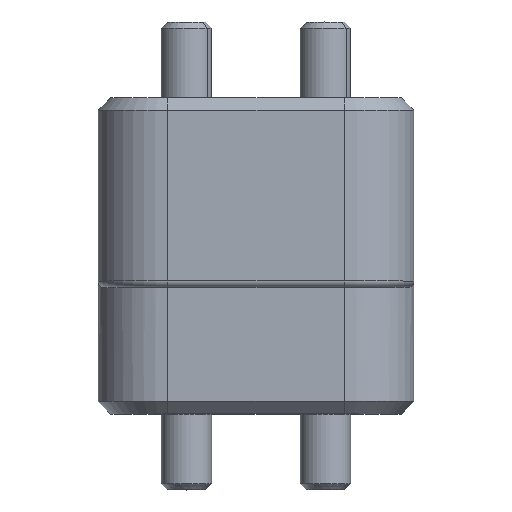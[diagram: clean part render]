
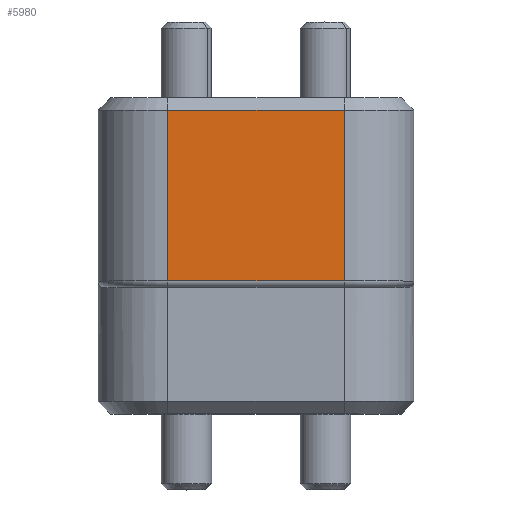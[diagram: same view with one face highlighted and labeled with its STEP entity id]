
A CAD part, top view. The second image highlights one B-rep face of the part: STEP entity #5980.
In plain terms, the highlighted planar face has unit normal (0, 0, 1) as drawn and (0, 1, 0) by its records, which use the part's own axes.
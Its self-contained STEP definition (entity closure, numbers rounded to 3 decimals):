
#21 = EDGE_CURVE ( 'NONE', #5123, #7241, #3471, .T. ) ;
#198 = ORIENTED_EDGE ( 'NONE', *, *, #3148, .T. ) ;
#388 = PLANE ( 'NONE',  #7082 ) ;
#559 = FACE_OUTER_BOUND ( 'NONE', #1313, .T. ) ;
#629 = LINE ( 'NONE', #6373, #5576 ) ;
#869 = CARTESIAN_POINT ( 'NONE',  ( 5.5, 15., -15. ) ) ;
#878 = DIRECTION ( 'NONE',  ( 1., 0., 0. ) ) ;
#1313 = EDGE_LOOP ( 'NONE', ( #5734, #2051, #8669, #198 ) ) ;
#1594 = VERTEX_POINT ( 'NONE', #4974 ) ;
#2051 = ORIENTED_EDGE ( 'NONE', *, *, #8916, .T. ) ;
#2103 = LINE ( 'NONE', #6735, #8668 ) ;
#2561 = DIRECTION ( 'NONE',  ( 0., 0., -1. ) ) ;
#2815 = DIRECTION ( 'NONE',  ( -1., 0., 0. ) ) ;
#3148 = EDGE_CURVE ( 'NONE', #7241, #1594, #2103, .T. ) ;
#3443 = VERTEX_POINT ( 'NONE', #8677 ) ;
#3471 = LINE ( 'NONE', #5773, #6678 ) ;
#4349 = CARTESIAN_POINT ( 'NONE',  ( 0., 15., -15. ) ) ;
#4823 = LINE ( 'NONE', #869, #7287 ) ;
#4974 = CARTESIAN_POINT ( 'NONE',  ( 5.5, 15., -14. ) ) ;
#5123 = VERTEX_POINT ( 'NONE', #9754 ) ;
#5576 = VECTOR ( 'NONE', #878, 1000. ) ;
#5734 = ORIENTED_EDGE ( 'NONE', *, *, #9457, .T. ) ;
#5773 = CARTESIAN_POINT ( 'NONE',  ( 19.5, 15., -15. ) ) ;
#5980 = ADVANCED_FACE ( 'NONE', ( #559 ), #388, .T. ) ;
#6292 = CARTESIAN_POINT ( 'NONE',  ( 19.5, 15., -14. ) ) ;
#6373 = CARTESIAN_POINT ( 'NONE',  ( 0., 15., -0.5 ) ) ;
#6678 = VECTOR ( 'NONE', #2561, 1000. ) ;
#6723 = DIRECTION ( 'NONE',  ( 0., 1., 0. ) ) ;
#6735 = CARTESIAN_POINT ( 'NONE',  ( 5.5, 15., -14. ) ) ;
#6790 = DIRECTION ( 'NONE',  ( 0., 0., 1. ) ) ;
#7082 = AXIS2_PLACEMENT_3D ( 'NONE', #4349, #6723, #6790 ) ;
#7241 = VERTEX_POINT ( 'NONE', #6292 ) ;
#7287 = VECTOR ( 'NONE', #8728, 1000. ) ;
#8668 = VECTOR ( 'NONE', #2815, 1000. ) ;
#8669 = ORIENTED_EDGE ( 'NONE', *, *, #21, .T. ) ;
#8677 = CARTESIAN_POINT ( 'NONE',  ( 5.5, 15., -0.5 ) ) ;
#8728 = DIRECTION ( 'NONE',  ( 0., 0., 1. ) ) ;
#8916 = EDGE_CURVE ( 'NONE', #3443, #5123, #629, .T. ) ;
#9457 = EDGE_CURVE ( 'NONE', #1594, #3443, #4823, .T. ) ;
#9754 = CARTESIAN_POINT ( 'NONE',  ( 19.5, 15., -0.5 ) ) ;
